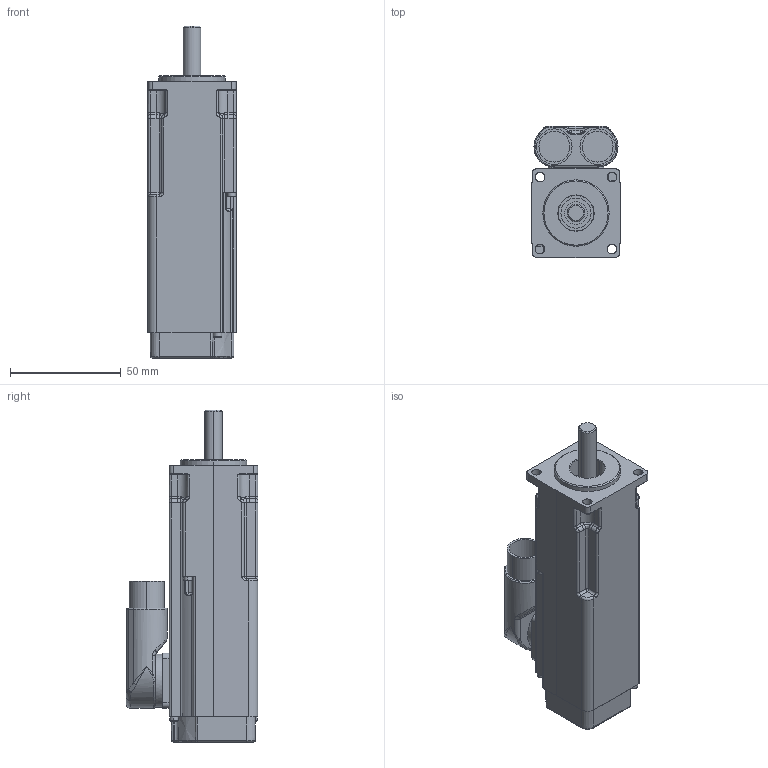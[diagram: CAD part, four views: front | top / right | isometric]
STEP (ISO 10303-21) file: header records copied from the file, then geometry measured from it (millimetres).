
FILE_DESCRIPTION (( 'STEP AP214' ), '1' );
FILE_NAME ('MR7711-Ux-Nxx-G##-AYD-MS-P0.stp', '2014-04-01T11:06:14', ( 'Windows User' ), ( '' ), 'SwSTEP 2.0', 'SolidWorks 2014', '' );
FILE_SCHEMA (( 'AUTOMOTIVE_DESIGN' ));
Length unit declared in the file: millimetre
Products named in the file (1): MR7711-Ux-Nxx-G##-AYD-MS-P0
Bounding box: 40 x 59.35 x 150 mm (x, y, z)
Volume: 207938 mm3; surface area: 30612.5 mm2
Topology: 1 solids, 1 shells, 475 faces, 1101 edges, 618 vertices
Faces by surface type: cylinder 186, bspline 107, torus 76, plane 76, cone 26, sphere 4
Entity records: 19132 total; most frequent: CARTESIAN_POINT 5343, ORIENTED_EDGE 2150, DIRECTION 2095, EDGE_CURVE 1075, AXIS2_PLACEMENT_3D 866, VERTEX_POINT 618, EDGE_LOOP 499, CIRCLE 497
